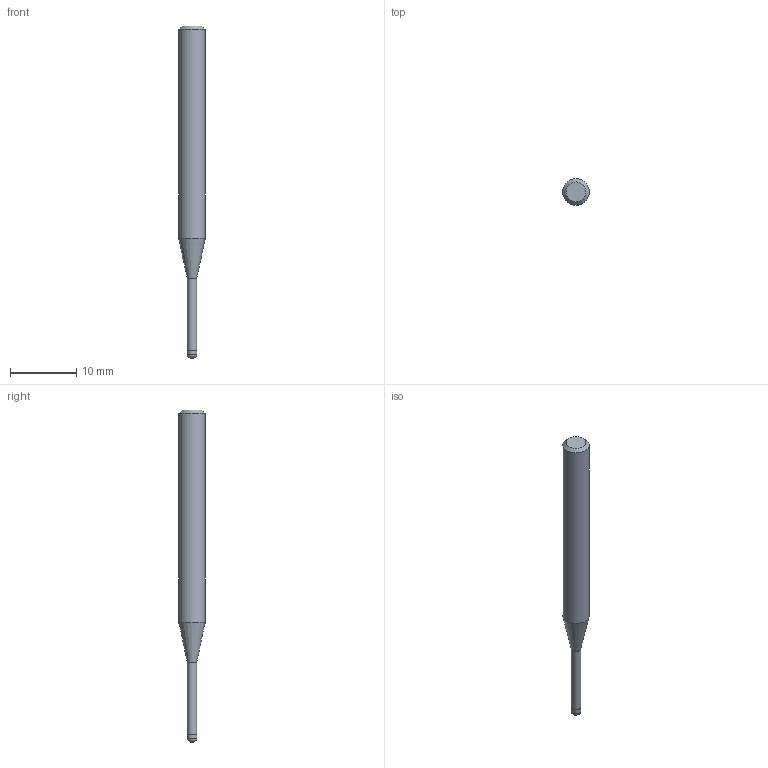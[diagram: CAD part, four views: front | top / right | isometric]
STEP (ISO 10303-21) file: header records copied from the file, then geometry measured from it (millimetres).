
FILE_DESCRIPTION((''),'2;1');
FILE_NAME('C:\Users\nsx150\AppData\Local\Temp\Mastercam 2021\3SYKECWX22\TEMP.step','2021-04-22T09:48:41',(''),(''),'STEP Write','Mastercam 2021 ... CNC Software, Inc.','');
FILE_SCHEMA(('AUTOMOTIVE_DESIGN'));
Length unit declared in the file: millimetre
Products named in the file (1): None
Bounding box: 4 x 4 x 50 mm (x, y, z)
Volume: 457 mm3; surface area: 521 mm2
Topology: 2 solids, 2 shells, 10 faces, 14 edges, 8 vertices
Faces by surface type: plane 4, cylinder 3, cone 2, torus 1
Full cylindrical faces by diameter (mm): 1.43 x1, 1.5 x1, 4 x1
Entity records: 232 total; most frequent: DIRECTION 40, CARTESIAN_POINT 28, AXIS2_PLACEMENT_3D 20, ORIENTED_EDGE 16, EDGE_LOOP 16, STYLED_ITEM 13, ADVANCED_FACE 10, FACE_BOUND 10
